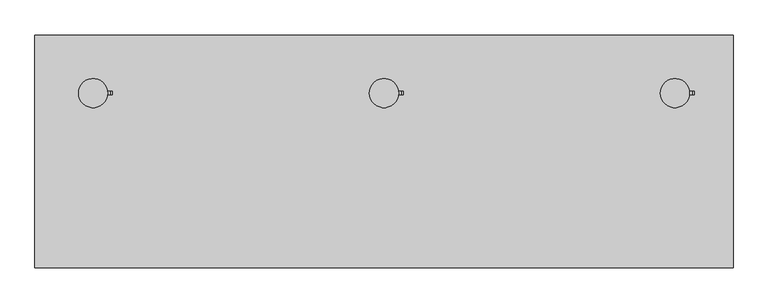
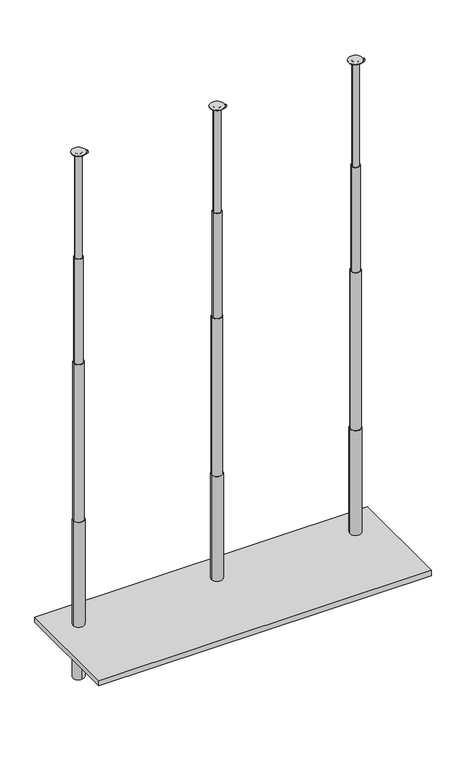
"""IFC4 building model written with IfcOpenShell, lengths in millimetres: geographic element geometry, FDE_MB03_MastrodeBandeira2 : MB03_MastrodeBandeira 2."""

from ifc_helpers import new_model, si_unit, point, frame, frame_2d, origin, origin_with_axes, place, context, project, spatial, polyline, circle_curve, trimmed, segment, composite_curve, outline, extrude, source, transform, mapped, element, save
from ifc_brep_helpers import plane_surface, cylinder_surface, advanced_brep


def geographic_element_0bd58b81(model_context):
    return source(origin(), model_context, "Body", "SolidModel", [
        extrude(outline(composite_curve([segment(trimmed(circle_curve(frame_2d((-2500.0, 500.0)), 100.0), [point((-2500.0, 600.0))], [point((-2500.0, 400.0))], False, "CARTESIAN"), True, "CONTINUOUS"), segment(trimmed(circle_curve(frame_2d((-2500.0, 500.0)), 100.0), [point((-2500.0, 400.0))], [point((-2500.0, 600.0))], False, "CARTESIAN"), True, "CONTINUOUS")], self_intersect=False)), frame((0.0, 0.0, -900.0), z_axis=(0.0, 0.0, 1.0), x_axis=(1.0, 0.0, 0.0)), (0.0, 0.0, 1.0), 900.0),
        extrude(outline(composite_curve([segment(trimmed(circle_curve(frame_2d((0.0, 500.0)), 100.0), [point((0.0, 600.0))], [point((0.0, 400.0))], False, "CARTESIAN"), True, "CONTINUOUS"), segment(trimmed(circle_curve(frame_2d((0.0, 500.0)), 100.0), [point((0.0, 400.0))], [point((0.0, 600.0))], False, "CARTESIAN"), True, "CONTINUOUS")], self_intersect=False)), frame((0.0, 0.0, -900.0), z_axis=(0.0, 0.0, 1.0), x_axis=(1.0, 0.0, 0.0)), (0.0, 0.0, 1.0), 900.0),
        extrude(outline(composite_curve([segment(trimmed(circle_curve(frame_2d((2500.0, 500.0)), 100.0), [point((2500.0, 600.0))], [point((2500.0, 400.0))], False, "CARTESIAN"), True, "CONTINUOUS"), segment(trimmed(circle_curve(frame_2d((2500.0, 500.0)), 100.0), [point((2500.0, 400.0))], [point((2500.0, 600.0))], False, "CARTESIAN"), True, "CONTINUOUS")], self_intersect=False)), frame((0.0, 0.0, -900.0), z_axis=(0.0, 0.0, 1.0), x_axis=(1.0, 0.0, 0.0)), (0.0, 0.0, 1.0), 900.0),
        extrude(outline(polyline([(-3000.0, -1000.0), (-3000.0, 1000.0), (3000.0, 1000.0), (3000.0, -1000.0), (-3000.0, -1000.0)])), origin_with_axes(), (0.0, 0.0, 1.0), 100.0),
        advanced_brep(
        [(2666.0, 515.0873842, 9067.0), (2666.0, 515.0873842, 9035.0), (2650.3771551, 515.0873842, 9035.0), (2599.6228449, 515.0873842, 9035.0), (2558.0721176, 515.0873842, 9035.0), (2558.0721176, 515.0873842, 9067.0), (2599.6228449, 515.0873842, 9067.0), (2650.3771551, 515.0873842, 9067.0), (2666.0, 487.0873842, 9035.0), (2666.0, 487.0873842, 9067.0), (2650.3771551, 487.0873842, 9067.0), (2599.6228449, 487.0873842, 9067.0), (2558.5940641, 487.0873842, 9067.0), (2558.5940641, 487.0873842, 9035.0), (2599.6228449, 487.0873842, 9035.0), (2650.3771551, 487.0873842, 9035.0), (2560.0, 500.0, 9067.0), (2560.0, 500.0, 9035.0), (2400.0, 500.0, 2100.0), (2600.0, 500.0, 2100.0), (2590.0, 500.0, 2100.0), (2410.0, 500.0, 2100.0), (2400.0, 500.0, 100.0), (2600.0, 500.0, 100.0), (2410.0, 500.0, 5100.0), (2590.0, 500.0, 5100.0), (2575.0, 500.0, 5100.0), (2425.0, 500.0, 5100.0), (2425.0, 500.0, 7100.0), (2575.0, 500.0, 7100.0), (2560.0, 500.0, 7100.0), (2440.0, 500.0, 7100.0), (2440.0, 500.0, 9097.0), (2560.0, 500.0, 9097.0)],
        [
            (0, 1),
            (1, 2),
            (2, 3, circle_curve(frame((2625.0, 515.0873842, 9051.0), z_axis=(0.0, 1.0, 0.0), x_axis=(1.0, 0.0, 0.0)), 30.0)),
            (3, 4),
            (4, 5),
            (5, 6),
            (6, 7, circle_curve(frame((2625.0, 515.0873842, 9051.0), z_axis=(0.0, 1.0, 0.0), x_axis=(1.0, 0.0, 0.0)), 30.0)),
            (7, 0),
            (8, 9),
            (9, 10),
            (10, 11, circle_curve(frame((2625.0, 487.0873842, 9051.0), z_axis=(0.0, -1.0, 0.0), x_axis=(1.0, 0.0, 0.0)), 30.0)),
            (11, 12),
            (12, 13),
            (13, 14),
            (14, 15, circle_curve(frame((2625.0, 487.0873842, 9051.0), z_axis=(0.0, -1.0, 0.0), x_axis=(1.0, 0.0, 0.0)), 30.0)),
            (15, 8),
            (9, 0),
            (7, 10),
            (11, 6),
            (5, 16, circle_curve(frame((2500.0, 500.0, 9067.0), z_axis=(0.0, 0.0, -1.0), x_axis=(1.0, 0.0, 0.0)), 60.0)),
            (16, 12, circle_curve(frame((2500.0, 500.0, 9067.0), z_axis=(0.0, 0.0, -1.0), x_axis=(1.0, 0.0, 0.0)), 60.0)),
            (1, 8),
            (15, 2),
            (3, 14),
            (13, 17, circle_curve(frame((2500.0, 500.0, 9035.0), z_axis=(0.0, 0.0, 1.0), x_axis=(1.0, 0.0, 0.0)), 60.0)),
            (17, 4, circle_curve(frame((2500.0, 500.0, 9035.0), z_axis=(0.0, 0.0, 1.0), x_axis=(1.0, 0.0, 0.0)), 60.0)),
            (18, 19, circle_curve(frame((2500.0, 500.0, 2100.0), z_axis=(0.0, 0.0, 1.0), x_axis=(1.0, 0.0, 0.0)), 100.0)),
            (19, 18, circle_curve(frame((2500.0, 500.0, 2100.0), z_axis=(0.0, 0.0, 1.0), x_axis=(1.0, 0.0, 0.0)), 100.0)),
            (20, 21, circle_curve(frame((2500.0, 500.0, 2100.0), z_axis=(0.0, 0.0, -1.0), x_axis=(1.0, 0.0, 0.0)), 90.0)),
            (21, 20, circle_curve(frame((2500.0, 500.0, 2100.0), z_axis=(0.0, 0.0, -1.0), x_axis=(1.0, 0.0, 0.0)), 90.0)),
            (22, 23, circle_curve(frame((2500.0, 500.0, 100.0), z_axis=(0.0, 0.0, -1.0), x_axis=(1.0, 0.0, 0.0)), 100.0)),
            (23, 22, circle_curve(frame((2500.0, 500.0, 100.0), z_axis=(0.0, 0.0, -1.0), x_axis=(1.0, 0.0, 0.0)), 100.0)),
            (18, 22),
            (23, 19),
            (24, 25, circle_curve(frame((2500.0, 500.0, 5100.0), z_axis=(0.0, 0.0, 1.0), x_axis=(1.0, 0.0, 0.0)), 90.0)),
            (25, 24, circle_curve(frame((2500.0, 500.0, 5100.0), z_axis=(0.0, 0.0, 1.0), x_axis=(1.0, 0.0, 0.0)), 90.0)),
            (26, 27, circle_curve(frame((2500.0, 500.0, 5100.0), z_axis=(0.0, 0.0, -1.0), x_axis=(1.0, 0.0, 0.0)), 75.0)),
            (27, 26, circle_curve(frame((2500.0, 500.0, 5100.0), z_axis=(0.0, 0.0, -1.0), x_axis=(1.0, 0.0, 0.0)), 75.0)),
            (24, 21),
            (20, 25),
            (28, 29, circle_curve(frame((2500.0, 500.0, 7100.0), z_axis=(0.0, 0.0, 1.0), x_axis=(1.0, 0.0, 0.0)), 75.0)),
            (29, 28, circle_curve(frame((2500.0, 500.0, 7100.0), z_axis=(0.0, 0.0, 1.0), x_axis=(1.0, 0.0, 0.0)), 75.0)),
            (30, 31, circle_curve(frame((2500.0, 500.0, 7100.0), z_axis=(0.0, 0.0, -1.0), x_axis=(1.0, 0.0, 0.0)), 60.0)),
            (31, 30, circle_curve(frame((2500.0, 500.0, 7100.0), z_axis=(0.0, 0.0, -1.0), x_axis=(1.0, 0.0, 0.0)), 60.0)),
            (28, 27),
            (26, 29),
            (32, 33, circle_curve(frame((2500.0, 500.0, 9097.0), z_axis=(0.0, 0.0, 1.0), x_axis=(1.0, 0.0, 0.0)), 60.0)),
            (33, 32, circle_curve(frame((2500.0, 500.0, 9097.0), z_axis=(0.0, 0.0, 1.0), x_axis=(1.0, 0.0, 0.0)), 60.0)),
            (32, 31),
            (30, 17),
            (16, 33),
        ],
        [
            plane_surface(frame((2548.0, 515.0873842, 9067.0), z_axis=(0.0, 1.0, 0.0), x_axis=(1.0, 0.0, 0.0))),
            plane_surface(frame((2548.0, 487.0873842, 9067.0), z_axis=(0.0, -1.0, 0.0), x_axis=(-1.0, 0.0, 0.0))),
            plane_surface(frame((2666.0, 487.0873842, 9067.0), z_axis=(0.0, 0.0, 1.0), x_axis=(0.0, 1.0, 0.0))),
            plane_surface(frame((2548.0, 487.0873842, 9035.0), z_axis=(0.0, 0.0, -1.0), x_axis=(0.0, 1.0, 0.0))),
            plane_surface(frame((2666.0, 487.0873842, 9035.0), z_axis=(1.0, 0.0, 0.0), x_axis=(0.0, 1.0, 0.0))),
            cylinder_surface(frame((2625.0, 515.0873842, 9051.0), z_axis=(0.0, -1.0, 0.0), x_axis=(1.0, 0.0, 0.0)), 30.0),
            plane_surface(frame((-2400.0, 500.0, 2100.0), z_axis=(0.0, 0.0, 1.0), x_axis=(0.0, 1.0, 0.0))),
            plane_surface(frame((-2400.0, 500.0, 100.0), z_axis=(0.0, 0.0, -1.0), x_axis=(0.0, -1.0, 0.0))),
            cylinder_surface(frame((2500.0, 500.0, 0.0), z_axis=(0.0, 0.0, 1.0), x_axis=(1.0, 0.0, 0.0)), 100.0),
            plane_surface(frame((-2410.0, 500.0, 5100.0), z_axis=(0.0, 0.0, 1.0), x_axis=(0.0, 1.0, 0.0))),
            cylinder_surface(frame((2500.0, 500.0, 0.0), z_axis=(0.0, 0.0, 1.0), x_axis=(1.0, 0.0, 0.0)), 90.0),
            plane_surface(frame((-2425.0, 500.0, 7100.0), z_axis=(0.0, 0.0, 1.0), x_axis=(0.0, 1.0, 0.0))),
            cylinder_surface(frame((2500.0, 500.0, 0.0), z_axis=(0.0, 0.0, 1.0), x_axis=(1.0, 0.0, 0.0)), 75.0),
            plane_surface(frame((-2440.0, 500.0, 9097.0), z_axis=(0.0, 0.0, 1.0), x_axis=(0.0, 1.0, 0.0))),
            cylinder_surface(frame((2500.0, 500.0, 0.0), z_axis=(0.0, 0.0, 1.0), x_axis=(1.0, 0.0, 0.0)), 60.0),
        ],
        [
            (0, [[1, 2, 3, 4, 5, 6, 7, 8]]),
            (1, [[9, 10, 11, 12, 13, 14, 15, 16]]),
            (2, [[17, -8, 18, -10]]),
            (2, [[19, -6, 20, 21, -12]]),
            (3, [[22, -16, 23, -2]]),
            (3, [[24, -14, 25, 26, -4]]),
            (4, [[-1, -17, -9, -22]]),
            (5, [[-3, -23, -15, -24]]),
            (5, [[-7, -19, -11, -18]]),
            (6, [[27, 28], [29, 30]]),
            (7, [[31, 32]]),
            (8, [[-27, 33, -32, 34]]),
            (8, [[-28, -34, -31, -33]]),
            (9, [[35, 36], [37, 38]]),
            (10, [[-35, 39, -29, 40]]),
            (10, [[-36, -40, -30, -39]]),
            (11, [[41, 42], [43, 44]]),
            (12, [[-41, 45, -37, 46]]),
            (12, [[-42, -46, -38, -45]]),
            (13, [[47, 48]]),
            (14, [[-47, 49, -43, 50, -25, -13, -21, 51]]),
            (14, [[-48, -51, -20, -5, -26, -50, -44, -49]]),
        ],
    ),
        advanced_brep(
        [(-2600.0, 500.0, 2100.0), (-2400.0, 500.0, 2100.0), (-2410.0, 500.0, 2100.0), (-2590.0, 500.0, 2100.0), (-2600.0, 500.0, 100.0), (-2400.0, 500.0, 100.0), (-2590.0, 500.0, 5100.0), (-2410.0, 500.0, 5100.0), (-2425.0, 500.0, 5100.0), (-2575.0, 500.0, 5100.0), (-2575.0, 500.0, 7100.0), (-2425.0, 500.0, 7100.0), (-2440.0, 500.0, 7100.0), (-2560.0, 500.0, 7100.0), (-2560.0, 500.0, 9097.0), (-2440.0, 500.0, 9097.0), (-2440.0, 500.0, 9035.0), (-2441.4059359, 487.0873842, 9035.0), (-2441.4059359, 487.0873842, 9067.0), (-2440.0, 500.0, 9067.0), (-2441.9278824, 515.0873842, 9067.0), (-2441.9278824, 515.0873842, 9035.0), (-2334.0, 515.0873842, 9067.0), (-2334.0, 515.0873842, 9035.0), (-2349.6228449, 515.0873842, 9035.0), (-2400.3771551, 515.0873842, 9035.0), (-2400.3771551, 515.0873842, 9067.0), (-2349.6228449, 515.0873842, 9067.0), (-2334.0, 487.0873842, 9035.0), (-2334.0, 487.0873842, 9067.0), (-2349.6228449, 487.0873842, 9067.0), (-2400.3771551, 487.0873842, 9067.0), (-2400.3771551, 487.0873842, 9035.0), (-2349.6228449, 487.0873842, 9035.0)],
        [
            (0, 1, circle_curve(frame((-2500.0, 500.0, 2100.0), z_axis=(0.0, 0.0, 1.0), x_axis=(1.0, 0.0, 0.0)), 100.0)),
            (1, 0, circle_curve(frame((-2500.0, 500.0, 2100.0), z_axis=(0.0, 0.0, 1.0), x_axis=(1.0, 0.0, 0.0)), 100.0)),
            (2, 3, circle_curve(frame((-2500.0, 500.0, 2100.0), z_axis=(0.0, 0.0, -1.0), x_axis=(1.0, 0.0, 0.0)), 90.0)),
            (3, 2, circle_curve(frame((-2500.0, 500.0, 2100.0), z_axis=(0.0, 0.0, -1.0), x_axis=(1.0, 0.0, 0.0)), 90.0)),
            (4, 5, circle_curve(frame((-2500.0, 500.0, 100.0), z_axis=(0.0, 0.0, -1.0), x_axis=(1.0, 0.0, 0.0)), 100.0)),
            (5, 4, circle_curve(frame((-2500.0, 500.0, 100.0), z_axis=(0.0, 0.0, -1.0), x_axis=(1.0, 0.0, 0.0)), 100.0)),
            (0, 4),
            (5, 1),
            (6, 7, circle_curve(frame((-2500.0, 500.0, 5100.0), z_axis=(0.0, 0.0, 1.0), x_axis=(1.0, 0.0, 0.0)), 90.0)),
            (7, 6, circle_curve(frame((-2500.0, 500.0, 5100.0), z_axis=(0.0, 0.0, 1.0), x_axis=(1.0, 0.0, 0.0)), 90.0)),
            (8, 9, circle_curve(frame((-2500.0, 500.0, 5100.0), z_axis=(0.0, 0.0, -1.0), x_axis=(1.0, 0.0, 0.0)), 75.0)),
            (9, 8, circle_curve(frame((-2500.0, 500.0, 5100.0), z_axis=(0.0, 0.0, -1.0), x_axis=(1.0, 0.0, 0.0)), 75.0)),
            (6, 3),
            (2, 7),
            (10, 11, circle_curve(frame((-2500.0, 500.0, 7100.0), z_axis=(0.0, 0.0, 1.0), x_axis=(1.0, 0.0, 0.0)), 75.0)),
            (11, 10, circle_curve(frame((-2500.0, 500.0, 7100.0), z_axis=(0.0, 0.0, 1.0), x_axis=(1.0, 0.0, 0.0)), 75.0)),
            (12, 13, circle_curve(frame((-2500.0, 500.0, 7100.0), z_axis=(0.0, 0.0, -1.0), x_axis=(1.0, 0.0, 0.0)), 60.0)),
            (13, 12, circle_curve(frame((-2500.0, 500.0, 7100.0), z_axis=(0.0, 0.0, -1.0), x_axis=(1.0, 0.0, 0.0)), 60.0)),
            (10, 9),
            (8, 11),
            (14, 15, circle_curve(frame((-2500.0, 500.0, 9097.0), z_axis=(0.0, 0.0, 1.0), x_axis=(1.0, 0.0, 0.0)), 60.0)),
            (15, 14, circle_curve(frame((-2500.0, 500.0, 9097.0), z_axis=(0.0, 0.0, 1.0), x_axis=(1.0, 0.0, 0.0)), 60.0)),
            (14, 13),
            (12, 16),
            (16, 17, circle_curve(frame((-2500.0, 500.0, 9035.0), z_axis=(0.0, 0.0, -1.0), x_axis=(1.0, 0.0, 0.0)), 60.0)),
            (17, 18),
            (18, 19, circle_curve(frame((-2500.0, 500.0, 9067.0), z_axis=(0.0, 0.0, 1.0), x_axis=(1.0, 0.0, 0.0)), 60.0)),
            (19, 15),
            (19, 20, circle_curve(frame((-2500.0, 500.0, 9067.0), z_axis=(0.0, 0.0, 1.0), x_axis=(1.0, 0.0, 0.0)), 60.0)),
            (20, 21),
            (21, 16, circle_curve(frame((-2500.0, 500.0, 9035.0), z_axis=(0.0, 0.0, -1.0), x_axis=(1.0, 0.0, 0.0)), 60.0)),
            (22, 23),
            (23, 24),
            (24, 25, circle_curve(frame((-2375.0, 515.0873842, 9051.0), z_axis=(0.0, 1.0, 0.0), x_axis=(1.0, 0.0, 0.0)), 30.0)),
            (25, 21),
            (20, 26),
            (26, 27, circle_curve(frame((-2375.0, 515.0873842, 9051.0), z_axis=(0.0, 1.0, 0.0), x_axis=(1.0, 0.0, 0.0)), 30.0)),
            (27, 22),
            (28, 29),
            (29, 30),
            (30, 31, circle_curve(frame((-2375.0, 487.0873842, 9051.0), z_axis=(0.0, -1.0, 0.0), x_axis=(1.0, 0.0, 0.0)), 30.0)),
            (31, 18),
            (17, 32),
            (32, 33, circle_curve(frame((-2375.0, 487.0873842, 9051.0), z_axis=(0.0, -1.0, 0.0), x_axis=(1.0, 0.0, 0.0)), 30.0)),
            (33, 28),
            (29, 22),
            (27, 30),
            (31, 26),
            (23, 28),
            (33, 24),
            (25, 32),
        ],
        [
            plane_surface(frame((-2400.0, 500.0, 2100.0), z_axis=(0.0, 0.0, 1.0), x_axis=(0.0, 1.0, 0.0))),
            plane_surface(frame((-2400.0, 500.0, 100.0), z_axis=(0.0, 0.0, -1.0), x_axis=(0.0, -1.0, 0.0))),
            cylinder_surface(frame((-2500.0, 500.0, 100.0), z_axis=(0.0, 0.0, 1.0), x_axis=(1.0, 0.0, 0.0)), 100.0),
            plane_surface(frame((-2410.0, 500.0, 5100.0), z_axis=(0.0, 0.0, 1.0), x_axis=(0.0, 1.0, 0.0))),
            cylinder_surface(frame((-2500.0, 500.0, 2100.0), z_axis=(0.0, 0.0, 1.0), x_axis=(1.0, 0.0, 0.0)), 90.0),
            plane_surface(frame((-2425.0, 500.0, 7100.0), z_axis=(0.0, 0.0, 1.0), x_axis=(0.0, 1.0, 0.0))),
            cylinder_surface(frame((-2500.0, 500.0, 5100.0), z_axis=(0.0, 0.0, 1.0), x_axis=(1.0, 0.0, 0.0)), 75.0),
            plane_surface(frame((-2440.0, 500.0, 9097.0), z_axis=(0.0, 0.0, 1.0), x_axis=(0.0, 1.0, 0.0))),
            cylinder_surface(frame((-2500.0, 500.0, 7100.0), z_axis=(0.0, 0.0, 1.0), x_axis=(1.0, 0.0, 0.0)), 60.0),
            plane_surface(frame((-2452.0, 515.0873842, 9067.0), z_axis=(0.0, 1.0, 0.0), x_axis=(1.0, 0.0, 0.0))),
            plane_surface(frame((-2452.0, 487.0873842, 9067.0), z_axis=(0.0, -1.0, 0.0), x_axis=(-1.0, 0.0, 0.0))),
            plane_surface(frame((-2334.0, 487.0873842, 9067.0), z_axis=(0.0, 0.0, 1.0), x_axis=(0.0, 1.0, 0.0))),
            plane_surface(frame((-2452.0, 487.0873842, 9035.0), z_axis=(0.0, 0.0, -1.0), x_axis=(0.0, 1.0, 0.0))),
            plane_surface(frame((-2334.0, 487.0873842, 9035.0), z_axis=(1.0, 0.0, 0.0), x_axis=(0.0, 1.0, 0.0))),
            cylinder_surface(frame((-2375.0, 515.0873842, 9051.0), z_axis=(0.0, -1.0, 0.0), x_axis=(1.0, 0.0, 0.0)), 30.0),
        ],
        [
            (0, [[1, 2], [3, 4]]),
            (1, [[5, 6]]),
            (2, [[-1, 7, -6, 8]]),
            (2, [[-2, -8, -5, -7]]),
            (3, [[9, 10], [11, 12]]),
            (4, [[-9, 13, -3, 14]]),
            (4, [[-10, -14, -4, -13]]),
            (5, [[15, 16], [17, 18]]),
            (6, [[-15, 19, -11, 20]]),
            (6, [[-16, -20, -12, -19]]),
            (7, [[21, 22]]),
            (8, [[-21, 23, -17, 24, 25, 26, 27, 28]]),
            (8, [[-22, -28, 29, 30, 31, -24, -18, -23]]),
            (9, [[32, 33, 34, 35, -30, 36, 37, 38]]),
            (10, [[39, 40, 41, 42, -26, 43, 44, 45]]),
            (11, [[46, -38, 47, -40]]),
            (11, [[48, -36, -29, -27, -42]]),
            (12, [[49, -45, 50, -33]]),
            (12, [[51, -43, -25, -31, -35]]),
            (13, [[-32, -46, -39, -49]]),
            (14, [[-34, -50, -44, -51]]),
            (14, [[-37, -48, -41, -47]]),
        ],
    ),
        advanced_brep(
        [(-100.0, 500.0, 2100.0), (100.0, 500.0, 2100.0), (90.0, 500.0, 2100.0), (-90.0, 500.0, 2100.0), (-100.0, 500.0, 100.0), (100.0, 500.0, 100.0), (-90.0, 500.0, 5100.0), (90.0, 500.0, 5100.0), (75.0, 500.0, 5100.0), (-75.0, 500.0, 5100.0), (-75.0, 500.0, 7100.0), (75.0, 500.0, 7100.0), (60.0, 500.0, 7100.0), (-60.0, 500.0, 7100.0), (-60.0, 500.0, 9097.0), (60.0, 500.0, 9097.0), (60.0, 500.0, 9035.0), (58.5940641, 487.0873842, 9035.0), (58.5940641, 487.0873842, 9067.0), (60.0, 500.0, 9067.0), (58.0721176, 515.0873842, 9067.0), (58.0721176, 515.0873842, 9035.0), (166.0, 515.0873842, 9067.0), (166.0, 515.0873842, 9035.0), (150.3771551, 515.0873842, 9035.0), (99.6228449, 515.0873842, 9035.0), (99.6228449, 515.0873842, 9067.0), (150.3771551, 515.0873842, 9067.0), (166.0, 487.0873842, 9035.0), (166.0, 487.0873842, 9067.0), (150.3771551, 487.0873842, 9067.0), (99.6228449, 487.0873842, 9067.0), (99.6228449, 487.0873842, 9035.0), (150.3771551, 487.0873842, 9035.0)],
        [
            (0, 1, circle_curve(frame((0.0, 500.0, 2100.0), z_axis=(0.0, 0.0, 1.0), x_axis=(1.0, 0.0, 0.0)), 100.0)),
            (1, 0, circle_curve(frame((0.0, 500.0, 2100.0), z_axis=(0.0, 0.0, 1.0), x_axis=(1.0, 0.0, 0.0)), 100.0)),
            (2, 3, circle_curve(frame((0.0, 500.0, 2100.0), z_axis=(0.0, 0.0, -1.0), x_axis=(1.0, 0.0, 0.0)), 90.0)),
            (3, 2, circle_curve(frame((0.0, 500.0, 2100.0), z_axis=(0.0, 0.0, -1.0), x_axis=(1.0, 0.0, 0.0)), 90.0)),
            (4, 5, circle_curve(frame((0.0, 500.0, 100.0), z_axis=(0.0, 0.0, -1.0), x_axis=(1.0, 0.0, 0.0)), 100.0)),
            (5, 4, circle_curve(frame((0.0, 500.0, 100.0), z_axis=(0.0, 0.0, -1.0), x_axis=(1.0, 0.0, 0.0)), 100.0)),
            (0, 4),
            (5, 1),
            (6, 7, circle_curve(frame((0.0, 500.0, 5100.0), z_axis=(0.0, 0.0, 1.0), x_axis=(1.0, 0.0, 0.0)), 90.0)),
            (7, 6, circle_curve(frame((0.0, 500.0, 5100.0), z_axis=(0.0, 0.0, 1.0), x_axis=(1.0, 0.0, 0.0)), 90.0)),
            (8, 9, circle_curve(frame((0.0, 500.0, 5100.0), z_axis=(0.0, 0.0, -1.0), x_axis=(1.0, 0.0, 0.0)), 75.0)),
            (9, 8, circle_curve(frame((0.0, 500.0, 5100.0), z_axis=(0.0, 0.0, -1.0), x_axis=(1.0, 0.0, 0.0)), 75.0)),
            (6, 3),
            (2, 7),
            (10, 11, circle_curve(frame((0.0, 500.0, 7100.0), z_axis=(0.0, 0.0, 1.0), x_axis=(1.0, 0.0, 0.0)), 75.0)),
            (11, 10, circle_curve(frame((0.0, 500.0, 7100.0), z_axis=(0.0, 0.0, 1.0), x_axis=(1.0, 0.0, 0.0)), 75.0)),
            (12, 13, circle_curve(frame((0.0, 500.0, 7100.0), z_axis=(0.0, 0.0, -1.0), x_axis=(1.0, 0.0, 0.0)), 60.0)),
            (13, 12, circle_curve(frame((0.0, 500.0, 7100.0), z_axis=(0.0, 0.0, -1.0), x_axis=(1.0, 0.0, 0.0)), 60.0)),
            (10, 9),
            (8, 11),
            (14, 15, circle_curve(frame((0.0, 500.0, 9097.0), z_axis=(0.0, 0.0, 1.0), x_axis=(1.0, 0.0, 0.0)), 60.0)),
            (15, 14, circle_curve(frame((0.0, 500.0, 9097.0), z_axis=(0.0, 0.0, 1.0), x_axis=(1.0, 0.0, 0.0)), 60.0)),
            (14, 13),
            (12, 16),
            (16, 17, circle_curve(frame((0.0, 500.0, 9035.0), z_axis=(0.0, 0.0, -1.0), x_axis=(1.0, 0.0, 0.0)), 60.0)),
            (17, 18),
            (18, 19, circle_curve(frame((0.0, 500.0, 9067.0), z_axis=(0.0, 0.0, 1.0), x_axis=(1.0, 0.0, 0.0)), 60.0)),
            (19, 15),
            (19, 20, circle_curve(frame((0.0, 500.0, 9067.0), z_axis=(0.0, 0.0, 1.0), x_axis=(1.0, 0.0, 0.0)), 60.0)),
            (20, 21),
            (21, 16, circle_curve(frame((0.0, 500.0, 9035.0), z_axis=(0.0, 0.0, -1.0), x_axis=(1.0, 0.0, 0.0)), 60.0)),
            (22, 23),
            (23, 24),
            (24, 25, circle_curve(frame((125.0, 515.0873842, 9051.0), z_axis=(0.0, 1.0, 0.0), x_axis=(1.0, 0.0, 0.0)), 30.0)),
            (25, 21),
            (20, 26),
            (26, 27, circle_curve(frame((125.0, 515.0873842, 9051.0), z_axis=(0.0, 1.0, 0.0), x_axis=(1.0, 0.0, 0.0)), 30.0)),
            (27, 22),
            (28, 29),
            (29, 30),
            (30, 31, circle_curve(frame((125.0, 487.0873842, 9051.0), z_axis=(0.0, -1.0, 0.0), x_axis=(1.0, 0.0, 0.0)), 30.0)),
            (31, 18),
            (17, 32),
            (32, 33, circle_curve(frame((125.0, 487.0873842, 9051.0), z_axis=(0.0, -1.0, 0.0), x_axis=(1.0, 0.0, 0.0)), 30.0)),
            (33, 28),
            (29, 22),
            (27, 30),
            (31, 26),
            (23, 28),
            (33, 24),
            (25, 32),
        ],
        [
            plane_surface(frame((-2400.0, 500.0, 2100.0), z_axis=(0.0, 0.0, 1.0), x_axis=(0.0, 1.0, 0.0))),
            plane_surface(frame((-2400.0, 500.0, 100.0), z_axis=(0.0, 0.0, -1.0), x_axis=(0.0, -1.0, 0.0))),
            cylinder_surface(frame((0.0, 500.0, 0.0), z_axis=(0.0, 0.0, 1.0), x_axis=(1.0, 0.0, 0.0)), 100.0),
            plane_surface(frame((-2410.0, 500.0, 5100.0), z_axis=(0.0, 0.0, 1.0), x_axis=(0.0, 1.0, 0.0))),
            cylinder_surface(frame((0.0, 500.0, 0.0), z_axis=(0.0, 0.0, 1.0), x_axis=(1.0, 0.0, 0.0)), 90.0),
            plane_surface(frame((-2425.0, 500.0, 7100.0), z_axis=(0.0, 0.0, 1.0), x_axis=(0.0, 1.0, 0.0))),
            cylinder_surface(frame((0.0, 500.0, 0.0), z_axis=(0.0, 0.0, 1.0), x_axis=(1.0, 0.0, 0.0)), 75.0),
            plane_surface(frame((-2440.0, 500.0, 9097.0), z_axis=(0.0, 0.0, 1.0), x_axis=(0.0, 1.0, 0.0))),
            cylinder_surface(frame((0.0, 500.0, 0.0), z_axis=(0.0, 0.0, 1.0), x_axis=(1.0, 0.0, 0.0)), 60.0),
            plane_surface(frame((48.0, 515.0873842, 9067.0), z_axis=(0.0, 1.0, 0.0), x_axis=(1.0, 0.0, 0.0))),
            plane_surface(frame((48.0, 487.0873842, 9067.0), z_axis=(0.0, -1.0, 0.0), x_axis=(-1.0, 0.0, 0.0))),
            plane_surface(frame((166.0, 487.0873842, 9067.0), z_axis=(0.0, 0.0, 1.0), x_axis=(0.0, 1.0, 0.0))),
            plane_surface(frame((48.0, 487.0873842, 9035.0), z_axis=(0.0, 0.0, -1.0), x_axis=(0.0, 1.0, 0.0))),
            plane_surface(frame((166.0, 487.0873842, 9035.0), z_axis=(1.0, 0.0, 0.0), x_axis=(0.0, 1.0, 0.0))),
            cylinder_surface(frame((125.0, 515.0873842, 9051.0), z_axis=(0.0, -1.0, 0.0), x_axis=(1.0, 0.0, 0.0)), 30.0),
        ],
        [
            (0, [[1, 2], [3, 4]]),
            (1, [[5, 6]]),
            (2, [[-1, 7, -6, 8]]),
            (2, [[-2, -8, -5, -7]]),
            (3, [[9, 10], [11, 12]]),
            (4, [[-9, 13, -3, 14]]),
            (4, [[-10, -14, -4, -13]]),
            (5, [[15, 16], [17, 18]]),
            (6, [[-15, 19, -11, 20]]),
            (6, [[-16, -20, -12, -19]]),
            (7, [[21, 22]]),
            (8, [[-21, 23, -17, 24, 25, 26, 27, 28]]),
            (8, [[-22, -28, 29, 30, 31, -24, -18, -23]]),
            (9, [[32, 33, 34, 35, -30, 36, 37, 38]]),
            (10, [[39, 40, 41, 42, -26, 43, 44, 45]]),
            (11, [[46, -38, 47, -40]]),
            (11, [[48, -36, -29, -27, -42]]),
            (12, [[49, -45, 50, -33]]),
            (12, [[51, -43, -25, -31, -35]]),
            (13, [[-32, -46, -39, -49]]),
            (14, [[-34, -50, -44, -51]]),
            (14, [[-37, -48, -41, -47]]),
        ],
    ),
        extrude(outline(composite_curve([segment(trimmed(circle_curve(frame_2d((2500.0, 500.0)), 125.0), [point((2375.0, 500.0))], [point((2625.0, 500.0))], False, "CARTESIAN"), True, "CONTINUOUS"), segment(trimmed(circle_curve(frame_2d((2500.0, 500.0)), 125.0), [point((2625.0, 500.0))], [point((2375.0, 500.0))], False, "CARTESIAN"), True, "CONTINUOUS")], self_intersect=False)), frame((0.0, 0.0, 9097.0), z_axis=(0.0, 0.0, 1.0), x_axis=(1.0, 0.0, 0.0)), (0.0, 0.0, 1.0), 3.0),
        extrude(outline(composite_curve([segment(trimmed(circle_curve(frame_2d((0.0, 500.0)), 125.0), [point((-125.0, 500.0))], [point((125.0, 500.0))], False, "CARTESIAN"), True, "CONTINUOUS"), segment(trimmed(circle_curve(frame_2d((0.0, 500.0)), 125.0), [point((125.0, 500.0))], [point((-125.0, 500.0))], False, "CARTESIAN"), True, "CONTINUOUS")], self_intersect=False)), frame((0.0, 0.0, 9097.0), z_axis=(0.0, 0.0, 1.0), x_axis=(1.0, 0.0, 0.0)), (0.0, 0.0, 1.0), 3.0),
        extrude(outline(composite_curve([segment(trimmed(circle_curve(frame_2d((-2500.0, 500.0)), 125.0), [point((-2625.0, 500.0))], [point((-2375.0, 500.0))], False, "CARTESIAN"), True, "CONTINUOUS"), segment(trimmed(circle_curve(frame_2d((-2500.0, 500.0)), 125.0), [point((-2375.0, 500.0))], [point((-2625.0, 500.0))], False, "CARTESIAN"), True, "CONTINUOUS")], self_intersect=False)), frame((0.0, 0.0, 9097.0), z_axis=(0.0, 0.0, 1.0), x_axis=(1.0, 0.0, 0.0)), (0.0, 0.0, 1.0), 3.0),
    ])


if __name__ == "__main__":
    model = new_model("IFC4")
    model_context = context("Model", 3, world=origin())
    ifc_project = project(units=[si_unit("LENGTHUNIT", "METRE", prefix="MILLI")], contexts=[model_context])
    site = spatial("IfcSite", under=ifc_project)
    building = spatial("IfcBuilding", under=site)
    placement = place(None, origin())
    geographic_element_shape = geographic_element_0bd58b81(model_context)
    element("IfcGeographicElement", 1, ObjectType="FDE_MB03_MastrodeBandeira2 : MB03_MastrodeBandeira 2", at=placement, inside=building, context=model_context, shape_type="MappedRepresentation", body=[
        mapped(geographic_element_shape, transform((0.0, 0.0, 0.0), x_axis=(1.0, 0.0, 0.0), y_axis=(0.0, 1.0, 0.0), z_axis=(0.0, 0.0, 1.0))),
    ])
    save(model, "model.ifc")
